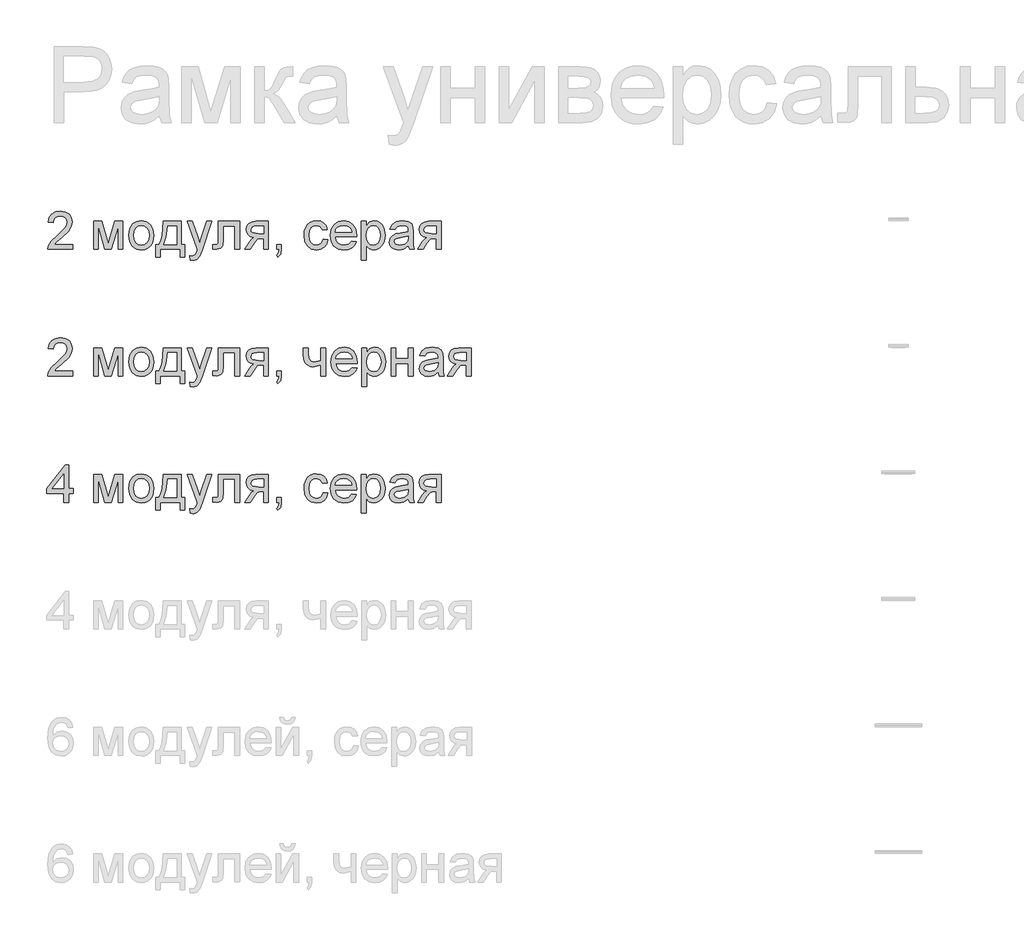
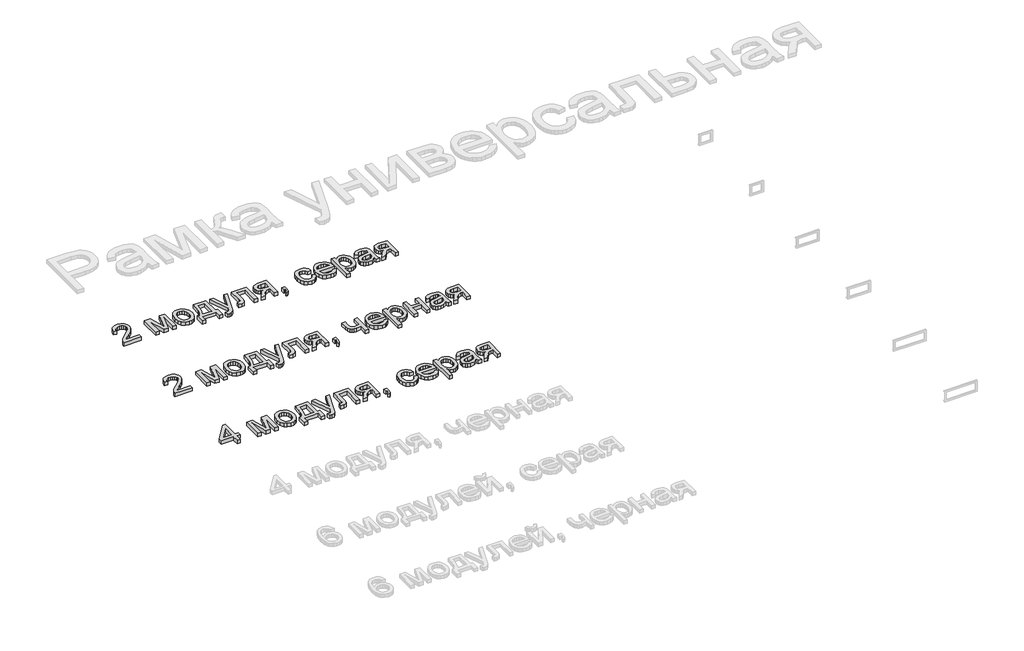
# One storey, part 6 of 168: 3 proxies.
"""IFC4 building model written with IfcOpenShell, lengths in millimetres."""

from ifc_helpers import new_model, si_unit, origin, origin_with_axes, place, context, project, spatial, polyline, outline, extrude, element, save

model = new_model("IFC4")

# Units and contexts
model_context = context("Model", 3, world=origin())
ifc_project = project(units=[si_unit("LENGTHUNIT", "METRE", prefix="MILLI")], contexts=[model_context])

# Site, building, storey
site = spatial("IfcSite", under=ifc_project)
building = spatial("IfcBuilding", under=site)
storey = spatial("IfcBuildingStorey", under=building, Name="Этаж 01", Elevation=0.0)

# Proxies
placement = place(None, origin())
element("IfcBuildingElementProxy", 1, Name="150", ObjectType="150", at=placement, inside=storey, context=model_context, shape_type="SweptSolid", body=[
    extrude(outline(polyline([(851.8055194, -43656.3988214), (851.8055194, -43675.2343796), (752.9188391, -43675.2343796), (754.9421901, -43662.2481452), (766.3833201, -43642.2537587), (789.964556, -43620.4199623), (822.4853244, -43589.0396281), (828.5829685, -43578.2238975), (830.6155165, -43567.7024724), (828.6979316, -43558.2708978), (822.9451769, -43550.4304127), (814.1022134, -43545.1467076), (802.9140022, -43543.3854725), (791.164771, -43545.1053209), (782.036699, -43550.2648658), (776.1459886, -43558.4594373), (774.108842, -43569.284365), (755.2732839, -43566.9299202), (759.8396191, -43548.7105644), (769.7126522, -43535.4024332), (784.3773482, -43527.2630441), (803.3186724, -43524.5499144), (822.3979524, -43527.5665467), (837.0350573, -43536.6164438), (846.3470703, -43550.1361071), (849.4510746, -43566.5620382), (846.1033485, -43584.4227091), (834.9749181, -43602.8903852), (807.9907738, -43628.6973072), (786.3225243, -43646.8154955), (777.8244502, -43656.3988214), (851.8055194, -43656.3988214)])), origin_with_axes(), (0.0, 0.0, 1.0), 20.0),
    extrude(outline(polyline([(934.2110863, -43564.5754754), (966.6214901, -43564.5754754), (991.6006776, -43653.1614599), (1018.5296396, -43564.5754754), (1049.57888, -43564.5754754), (1049.57888, -43675.2343796), (1030.7433219, -43675.2343796), (1030.7433219, -43586.1333604), (1003.667207, -43675.2343796), (978.9455369, -43675.2343796), (953.0466445, -43581.8659292), (953.0466445, -43675.2343796), (934.2110863, -43675.2343796), (934.2110863, -43564.5754754)])), origin_with_axes(), (0.0, 0.0, 1.0), 20.0),
    extrude(outline(polyline([(1073.1233277, -43619.9049275), (1077.1976208, -43593.2242858), (1089.4205001, -43574.4715011), (1104.522056, -43565.2836483), (1122.6034561, -43562.2210307), (1142.3909089, -43565.9504344), (1158.1960391, -43577.1386456), (1168.5565158, -43594.9027474), (1172.010008, -43618.3598231), (1170.4832977, -43637.3885193), (1165.9031669, -43651.8738729), (1158.4029727, -43662.7217932), (1148.1160724, -43670.8381898), (1135.8977917, -43675.9011657), (1122.6034561, -43677.5888244), (1102.5768799, -43673.8732162), (1086.7901438, -43662.7263918), (1076.5400317, -43644.5898094), (1073.1233277, -43619.9049275)]), holes=[polyline([(1091.9588859, -43619.8681393), (1094.1385867, -43636.9148713), (1100.6776891, -43649.0595756), (1110.5185325, -43656.3298436), (1122.6034561, -43658.7532662), (1134.6331973, -43656.316048), (1144.4556466, -43649.0043933), (1150.994749, -43636.6987406), (1153.1744499, -43619.2795281), (1150.9809535, -43602.7294369), (1144.4004643, -43590.7502794), (1134.5642194, -43583.4800115), (1122.6034561, -43581.0565888), (1110.5185325, -43583.4708144), (1100.6776891, -43590.7134912), (1094.1385867, -43602.8306044), (1091.9588859, -43619.8681393)])]), origin_with_axes(), (0.0, 0.0, 1.0), 20.0),
    extrude(outline(polyline([(1209.6811243, -43564.5754754), (1280.3144674, -43564.5754754), (1280.3144674, -43656.3988214), (1294.441136, -43656.3988214), (1294.441136, -43705.8421616), (1275.6055778, -43705.8421616), (1275.6055778, -43675.2343796), (1197.9089005, -43675.2343796), (1197.9089005, -43705.8421616), (1179.0733423, -43705.8421616), (1179.0733423, -43656.3988214), (1190.8455662, -43656.3988214), (1199.4034211, -43640.9339821), (1205.3952991, -43620.4751446), (1209.6811243, -43564.5754754)]), holes=[polyline([(1226.1622377, -43583.4110336), (1221.7476538, -43626.3244683), (1212.0355691, -43656.3988214), (1261.4789092, -43656.3988214), (1261.4789092, -43583.4110336), (1226.1622377, -43583.4110336)])]), origin_with_axes(), (0.0, 0.0, 1.0), 20.0),
    extrude(outline(polyline([(1315.6311389, -43717.6143854), (1313.2766942, -43699.4778031), (1322.841626, -43701.1332721), (1331.7811585, -43699.0547388), (1337.2626002, -43693.2605974), (1342.4129482, -43679.3914461), (1343.8844762, -43674.8297094), (1303.8589151, -43564.5754754), (1323.7245428, -43564.5754754), (1344.9513339, -43626.0117686), (1352.345762, -43650.5862859), (1359.7401901, -43628.8812482), (1381.5555925, -43564.5754754), (1401.2740674, -43564.5754754), (1362.7568225, -43677.88313), (1352.7504322, -43702.4576472), (1341.824337, -43715.7381873), (1327.1458454, -43719.9688302), (1315.6311389, -43717.6143854)])), origin_with_axes(), (0.0, 0.0, 1.0), 20.0),
    extrude(outline(polyline([(1426.2900431, -43564.5754754), (1511.0500548, -43564.5754754), (1511.0500548, -43675.124015), (1492.2144966, -43675.124015), (1492.2144966, -43583.4110336), (1445.1256012, -43583.4110336), (1445.1256012, -43636.2020999), (1443.8564083, -43660.555888), (1436.8850445, -43670.8381898), (1420.4039312, -43675.2343796), (1405.1000402, -43674.2778864), (1405.1000402, -43656.3988214), (1413.5245378, -43656.3988214), (1422.041006, -43655.2399932), (1425.4439145, -43651.5611732), (1426.2900431, -43635.1352421), (1426.2900431, -43564.5754754)])), origin_with_axes(), (0.0, 0.0, 1.0), 20.0),
    extrude(outline(polyline([(1624.0634037, -43564.5754754), (1624.0634037, -43675.2343796), (1605.2278455, -43675.2343796), (1605.2278455, -43632.8543737), (1594.9639379, -43632.8543737), (1580.984422, -43635.2456067), (1567.8510348, -43651.3220499), (1552.8414494, -43675.2343796), (1531.0628353, -43675.2343796), (1549.9719699, -43644.9944796), (1558.3228911, -43634.1419607), (1566.0116248, -43629.3227066), (1553.135755, -43625.3771722), (1544.0858579, -43617.8815765), (1538.7331749, -43607.9119745), (1536.9489472, -43596.5444208), (1539.3861654, -43583.6501569), (1546.6978201, -43573.4414315), (1558.6263938, -43566.7919645), (1574.9143691, -43564.5754754), (1624.0634037, -43564.5754754)]), holes=[polyline([(1605.2278455, -43583.4110336), (1580.3958109, -43583.4110336), (1567.5705248, -43584.500884), (1560.2910598, -43587.7704352), (1555.7845054, -43597.9791606), (1557.4445729, -43605.157458), (1562.4247754, -43610.1376605), (1585.950829, -43614.0188156), (1605.2278455, -43614.0188156), (1605.2278455, -43583.4110336)])]), origin_with_axes(), (0.0, 0.0, 1.0), 20.0),
    extrude(outline(polyline([(1657.0256304, -43675.2343796), (1657.0256304, -43656.3988214), (1675.8611886, -43656.3988214), (1675.8611886, -43675.2343796), (1672.4766742, -43694.493002), (1661.73452, -43705.8421616), (1657.0256304, -43698.7788273), (1663.941812, -43690.6486352), (1666.4066213, -43675.2343796), (1657.0256304, -43675.2343796)])), origin_with_axes(), (0.0, 0.0, 1.0), 20.0),
    extrude(outline(polyline([(1840.6723224, -43635.2088185), (1859.5078806, -43637.5632633), (1854.2563651, -43654.3156896), (1844.3879306, -43666.9754288), (1830.8314791, -43674.9354755), (1814.5159126, -43677.5888244), (1794.4801394, -43673.8870118), (1778.812965, -43662.7815741), (1768.7008086, -43644.7599548), (1765.3300898, -43620.3095977), (1766.7694281, -43603.5479743), (1771.0874431, -43589.021234), (1778.3531125, -43577.2903969), (1788.6354142, -43568.916483), (1800.9364684, -43563.8948938), (1814.2583952, -43562.2210307), (1830.17389, -43564.5202931), (1842.8980085, -43571.4180806), (1852.0260805, -43582.5465109), (1857.1534358, -43597.5377022), (1838.3178777, -43599.892147), (1829.5806803, -43585.7838725), (1814.405548, -43581.0565888), (1802.2332525, -43583.3834424), (1792.5717516, -43590.3640033), (1786.2671739, -43602.3753504), (1784.165648, -43619.7945629), (1786.2211886, -43637.4483002), (1792.3878106, -43649.501034), (1801.8745675, -43656.4402082), (1813.8905132, -43658.7532662), (1823.6439846, -43657.3093294), (1831.6408195, -43652.9775189), (1837.4579535, -43645.6474701), (1840.6723224, -43635.2088185)])), origin_with_axes(), (0.0, 0.0, 1.0), 20.0),
    extrude(outline(polyline([(1953.4649422, -43642.2721528), (1971.9326183, -43644.6265976), (1965.2785527, -43658.5417341), (1954.6605586, -43668.9435975), (1940.3177594, -43675.4275176), (1922.4892782, -43677.5888244), (1900.3887673, -43673.8594206), (1883.3834221, -43662.6712095), (1872.5401003, -43644.7507578), (1868.9256597, -43620.8246325), (1872.5768885, -43596.0937654), (1883.5305749, -43577.5984981), (1900.3059939, -43566.0653975), (1921.4224204, -43562.2210307), (1941.8812578, -43566.0562005), (1958.229014, -43577.5617099), (1968.9481756, -43596.020189), (1972.5212295, -43620.7142679), (1972.4108649, -43625.7910394), (1887.7612178, -43625.7910394), (1891.021572, -43639.8901169), (1898.5953426, -43650.2551921), (1909.5260364, -43656.6287477), (1922.8571602, -43658.7532662), (1941.3248363, -43654.8169289), (1953.4649422, -43642.2721528)]), holes=[polyline([(1887.7612178, -43606.9554813), (1953.6856714, -43606.9554813), (1951.1380885, -43597.0042733), (1946.1440905, -43589.8857567), (1935.1628129, -43583.2638808), (1921.348844, -43581.0565888), (1908.6523166, -43582.8178239), (1898.1538842, -43588.101529), (1890.8560251, -43596.3374872), (1887.7612178, -43606.9554813)])]), origin_with_axes(), (0.0, 0.0, 1.0), 20.0),
    extrude(outline(polyline([(1991.3567877, -43717.6143854), (1991.3567877, -43564.5754754), (2010.1923458, -43564.5754754), (2010.1923458, -43583.0431516), (2023.2153684, -43567.4265609), (2040.8001278, -43562.2210307), (2053.5380419, -43564.0420466), (2064.6756693, -43569.5050942), (2073.7439605, -43578.2790798), (2080.2738659, -43590.0329095), (2085.5345784, -43619.0587989), (2084.0492549, -43635.1674318), (2079.5932842, -43649.5746104), (2072.3092207, -43661.5491694), (2062.3396186, -43670.3599432), (2050.7283432, -43675.7816041), (2038.5192594, -43677.5888244), (2022.1301166, -43672.7511761), (2010.1923458, -43660.5190998), (2010.1923458, -43717.6143854), (1991.3567877, -43717.6143854)]), holes=[polyline([(2010.1923458, -43620.7878443), (2012.2294924, -43637.6736279), (2018.340932, -43649.4826399), (2027.3586394, -43656.4356096), (2038.1145893, -43658.7532662), (2049.045283, -43656.3528362), (2058.2929167, -43649.1515461), (2064.5974944, -43636.9102727), (2066.6990203, -43619.3898927), (2064.6480782, -43602.5960796), (2058.4952518, -43590.6215207), (2049.49134, -43583.4478218), (2038.8871414, -43581.0565888), (2028.2415562, -43583.5995731), (2018.892755, -43591.228526), (2012.3674481, -43603.7043242), (2010.1923458, -43620.7878443)])]), origin_with_axes(), (0.0, 0.0, 1.0), 20.0),
    extrude(outline(polyline([(2177.3579244, -43661.107711), (2159.0925834, -43673.8732162), (2138.9142559, -43677.5888244), (2123.1735051, -43675.3539412), (2111.5622296, -43668.6492919), (2104.4023263, -43658.4681577), (2102.0156918, -43645.80382), (2105.6209354, -43630.9045992), (2115.0938967, -43620.0888685), (2128.2824663, -43613.908451), (2144.5796387, -43611.0757596), (2177.2475598, -43604.6010365), (2177.3579244, -43600.4071818), (2176.0611404, -43592.0010782), (2172.1707883, -43586.5012424), (2163.4703791, -43582.4177522), (2151.3486674, -43581.0565888), (2132.29238, -43584.6802265), (2123.2056947, -43597.5377022), (2104.3701366, -43595.1832574), (2112.5187228, -43576.7891577), (2128.9262598, -43566.0102152), (2153.7766885, -43562.2210307), (2176.6037663, -43565.5687568), (2189.4980303, -43573.9748604), (2195.2737776, -43586.7587598), (2196.1934826, -43603.2398731), (2196.1934826, -43626.6739562), (2197.1499758, -43659.3970597), (2200.9023721, -43675.2343796), (2182.066814, -43675.2343796), (2177.3579244, -43661.107711)]), holes=[polyline([(2177.3579244, -43623.4365947), (2146.9708716, -43629.212342), (2130.7656697, -43632.2657626), (2123.4264239, -43637.2321695), (2120.85125, -43644.4794448), (2126.4614504, -43654.6697761), (2142.9241697, -43658.7532662), (2161.980457, -43654.2467118), (2174.2677157, -43643.3390106), (2177.2475598, -43628.7708836), (2177.3579244, -43623.4365947)])]), origin_with_axes(), (0.0, 0.0, 1.0), 20.0),
    extrude(outline(polyline([(2306.8523867, -43564.5754754), (2306.8523867, -43675.2343796), (2288.0168286, -43675.2343796), (2288.0168286, -43632.8543737), (2277.7529209, -43632.8543737), (2263.7734051, -43635.2456067), (2250.6400179, -43651.3220499), (2235.6304325, -43675.2343796), (2213.8518183, -43675.2343796), (2232.7609529, -43644.9944796), (2241.1118742, -43634.1419607), (2248.8006079, -43629.3227066), (2235.9247381, -43625.3771722), (2226.874841, -43617.8815765), (2221.5221579, -43607.9119745), (2219.7379303, -43596.5444208), (2222.1751485, -43583.6501569), (2229.4868031, -43573.4414315), (2241.4153768, -43566.7919645), (2257.7033522, -43564.5754754), (2306.8523867, -43564.5754754)]), holes=[polyline([(2288.0168286, -43583.4110336), (2263.1847939, -43583.4110336), (2250.3595078, -43584.500884), (2243.0800429, -43587.7704352), (2238.5734884, -43597.9791606), (2240.2335559, -43605.157458), (2245.2137584, -43610.1376605), (2268.739812, -43614.0188156), (2288.0168286, -43614.0188156), (2288.0168286, -43583.4110336)])]), origin_with_axes(), (0.0, 0.0, 1.0), 20.0),
])
element("IfcBuildingElementProxy", 2, Name="150", ObjectType="150", at=placement, inside=storey, context=model_context, shape_type="SweptSolid", body=[
    extrude(outline(polyline([(851.8055194, -44156.3988214), (851.8055194, -44175.2343796), (752.9188391, -44175.2343796), (754.9421901, -44162.2481452), (766.3833201, -44142.2537587), (789.964556, -44120.4199623), (822.4853244, -44089.0396281), (828.5829685, -44078.2238975), (830.6155165, -44067.7024724), (828.6979316, -44058.2708978), (822.9451769, -44050.4304127), (814.1022134, -44045.1467076), (802.9140022, -44043.3854725), (791.164771, -44045.1053209), (782.036699, -44050.2648658), (776.1459886, -44058.4594373), (774.108842, -44069.284365), (755.2732839, -44066.9299202), (759.8396191, -44048.7105644), (769.7126522, -44035.4024332), (784.3773482, -44027.2630441), (803.3186724, -44024.5499144), (822.3979524, -44027.5665467), (837.0350573, -44036.6164438), (846.3470703, -44050.1361071), (849.4510746, -44066.5620382), (846.1033485, -44084.4227091), (834.9749181, -44102.8903852), (807.9907738, -44128.6973072), (786.3225243, -44146.8154955), (777.8244502, -44156.3988214), (851.8055194, -44156.3988214)])), origin_with_axes(), (0.0, 0.0, 1.0), 20.0),
    extrude(outline(polyline([(934.2110863, -44064.5754754), (966.6214901, -44064.5754754), (991.6006776, -44153.1614599), (1018.5296396, -44064.5754754), (1049.57888, -44064.5754754), (1049.57888, -44175.2343796), (1030.7433219, -44175.2343796), (1030.7433219, -44086.1333604), (1003.667207, -44175.2343796), (978.9455369, -44175.2343796), (953.0466445, -44081.8659292), (953.0466445, -44175.2343796), (934.2110863, -44175.2343796), (934.2110863, -44064.5754754)])), origin_with_axes(), (0.0, 0.0, 1.0), 20.0),
    extrude(outline(polyline([(1073.1233277, -44119.9049275), (1077.1976208, -44093.2242858), (1089.4205001, -44074.4715011), (1104.522056, -44065.2836483), (1122.6034561, -44062.2210307), (1142.3909089, -44065.9504344), (1158.1960391, -44077.1386456), (1168.5565158, -44094.9027474), (1172.010008, -44118.3598231), (1170.4832977, -44137.3885193), (1165.9031669, -44151.8738729), (1158.4029727, -44162.7217932), (1148.1160724, -44170.8381898), (1135.8977917, -44175.9011657), (1122.6034561, -44177.5888244), (1102.5768799, -44173.8732162), (1086.7901438, -44162.7263918), (1076.5400317, -44144.5898094), (1073.1233277, -44119.9049275)]), holes=[polyline([(1091.9588859, -44119.8681393), (1094.1385867, -44136.9148713), (1100.6776891, -44149.0595756), (1110.5185325, -44156.3298436), (1122.6034561, -44158.7532662), (1134.6331973, -44156.316048), (1144.4556466, -44149.0043933), (1150.994749, -44136.6987406), (1153.1744499, -44119.2795281), (1150.9809535, -44102.7294369), (1144.4004643, -44090.7502794), (1134.5642194, -44083.4800115), (1122.6034561, -44081.0565888), (1110.5185325, -44083.4708144), (1100.6776891, -44090.7134912), (1094.1385867, -44102.8306044), (1091.9588859, -44119.8681393)])]), origin_with_axes(), (0.0, 0.0, 1.0), 20.0),
    extrude(outline(polyline([(1209.6811243, -44064.5754754), (1280.3144674, -44064.5754754), (1280.3144674, -44156.3988214), (1294.441136, -44156.3988214), (1294.441136, -44205.8421616), (1275.6055778, -44205.8421616), (1275.6055778, -44175.2343796), (1197.9089005, -44175.2343796), (1197.9089005, -44205.8421616), (1179.0733423, -44205.8421616), (1179.0733423, -44156.3988214), (1190.8455662, -44156.3988214), (1199.4034211, -44140.9339821), (1205.3952991, -44120.4751446), (1209.6811243, -44064.5754754)]), holes=[polyline([(1226.1622377, -44083.4110336), (1221.7476538, -44126.3244683), (1212.0355691, -44156.3988214), (1261.4789092, -44156.3988214), (1261.4789092, -44083.4110336), (1226.1622377, -44083.4110336)])]), origin_with_axes(), (0.0, 0.0, 1.0), 20.0),
    extrude(outline(polyline([(1315.6311389, -44217.6143854), (1313.2766942, -44199.4778031), (1322.841626, -44201.1332721), (1331.7811585, -44199.0547388), (1337.2626002, -44193.2605974), (1342.4129482, -44179.3914461), (1343.8844762, -44174.8297094), (1303.8589151, -44064.5754754), (1323.7245428, -44064.5754754), (1344.9513339, -44126.0117686), (1352.345762, -44150.5862859), (1359.7401901, -44128.8812482), (1381.5555925, -44064.5754754), (1401.2740674, -44064.5754754), (1362.7568225, -44177.88313), (1352.7504322, -44202.4576472), (1341.824337, -44215.7381873), (1327.1458454, -44219.9688302), (1315.6311389, -44217.6143854)])), origin_with_axes(), (0.0, 0.0, 1.0), 20.0),
    extrude(outline(polyline([(1426.2900431, -44064.5754754), (1511.0500548, -44064.5754754), (1511.0500548, -44175.124015), (1492.2144966, -44175.124015), (1492.2144966, -44083.4110336), (1445.1256012, -44083.4110336), (1445.1256012, -44136.2020999), (1443.8564083, -44160.555888), (1436.8850445, -44170.8381898), (1420.4039312, -44175.2343796), (1405.1000402, -44174.2778864), (1405.1000402, -44156.3988214), (1413.5245378, -44156.3988214), (1422.041006, -44155.2399932), (1425.4439145, -44151.5611732), (1426.2900431, -44135.1352421), (1426.2900431, -44064.5754754)])), origin_with_axes(), (0.0, 0.0, 1.0), 20.0),
    extrude(outline(polyline([(1624.0634037, -44064.5754754), (1624.0634037, -44175.2343796), (1605.2278455, -44175.2343796), (1605.2278455, -44132.8543737), (1594.9639379, -44132.8543737), (1580.984422, -44135.2456067), (1567.8510348, -44151.3220499), (1552.8414494, -44175.2343796), (1531.0628353, -44175.2343796), (1549.9719699, -44144.9944796), (1558.3228911, -44134.1419607), (1566.0116248, -44129.3227066), (1553.135755, -44125.3771722), (1544.0858579, -44117.8815765), (1538.7331749, -44107.9119745), (1536.9489472, -44096.5444208), (1539.3861654, -44083.6501569), (1546.6978201, -44073.4414315), (1558.6263938, -44066.7919645), (1574.9143691, -44064.5754754), (1624.0634037, -44064.5754754)]), holes=[polyline([(1605.2278455, -44083.4110336), (1580.3958109, -44083.4110336), (1567.5705248, -44084.500884), (1560.2910598, -44087.7704352), (1555.7845054, -44097.9791606), (1557.4445729, -44105.157458), (1562.4247754, -44110.1376605), (1585.950829, -44114.0188156), (1605.2278455, -44114.0188156), (1605.2278455, -44083.4110336)])]), origin_with_axes(), (0.0, 0.0, 1.0), 20.0),
    extrude(outline(polyline([(1657.0256304, -44175.2343796), (1657.0256304, -44156.3988214), (1675.8611886, -44156.3988214), (1675.8611886, -44175.2343796), (1672.4766742, -44194.493002), (1661.73452, -44205.8421616), (1657.0256304, -44198.7788273), (1663.941812, -44190.6486352), (1666.4066213, -44175.2343796), (1657.0256304, -44175.2343796)])), origin_with_axes(), (0.0, 0.0, 1.0), 20.0),
    extrude(outline(polyline([(1762.9756451, -44064.5754754), (1781.8112032, -44064.5754754), (1781.8112032, -44085.8022666), (1783.3379135, -44105.7046825), (1790.6771593, -44116.483625), (1805.2452863, -44121.0821499), (1831.2545434, -44115.379979), (1831.2545434, -44064.5754754), (1850.0901015, -44064.5754754), (1850.0901015, -44175.2343796), (1831.2545434, -44175.2343796), (1831.2545434, -44133.4429849), (1800.205303, -44139.9177081), (1788.8147567, -44138.2300494), (1778.8497532, -44133.1670734), (1771.0828445, -44125.6576822), (1766.286583, -44116.6307778), (1762.9756451, -44095.109681), (1762.9756451, -44064.5754754)])), origin_with_axes(), (0.0, 0.0, 1.0), 20.0),
    extrude(outline(polyline([(1955.8193869, -44142.2721528), (1974.2870631, -44144.6265976), (1967.6329975, -44158.5417341), (1957.0150034, -44168.9435975), (1942.6722041, -44175.4275176), (1924.8437229, -44177.5888244), (1902.7432121, -44173.8594206), (1885.7378668, -44162.6712095), (1874.894545, -44144.7507578), (1871.2801044, -44120.8246325), (1874.9313332, -44096.0937654), (1885.8850196, -44077.5984981), (1902.6604386, -44066.0653975), (1923.7768652, -44062.2210307), (1944.2357026, -44066.0562005), (1960.5834588, -44077.5617099), (1971.3026204, -44096.020189), (1974.8756743, -44120.7142679), (1974.7653097, -44125.7910394), (1890.1156626, -44125.7910394), (1893.3760168, -44139.8901169), (1900.9497874, -44150.2551921), (1911.8804811, -44156.6287477), (1925.2116049, -44158.7532662), (1943.6792811, -44154.8169289), (1955.8193869, -44142.2721528)]), holes=[polyline([(1890.1156626, -44106.9554813), (1956.0401161, -44106.9554813), (1953.4925333, -44097.0042733), (1948.4985352, -44089.8857567), (1937.5172577, -44083.2638808), (1923.7032888, -44081.0565888), (1911.0067614, -44082.8178239), (1900.508329, -44088.101529), (1893.2104699, -44096.3374872), (1890.1156626, -44106.9554813)])]), origin_with_axes(), (0.0, 0.0, 1.0), 20.0),
    extrude(outline(polyline([(1993.7112324, -44217.6143854), (1993.7112324, -44064.5754754), (2012.5467906, -44064.5754754), (2012.5467906, -44083.0431516), (2025.5698132, -44067.4265609), (2043.1545726, -44062.2210307), (2055.8924867, -44064.0420466), (2067.0301141, -44069.5050942), (2076.0984053, -44078.2790798), (2082.6283107, -44090.0329095), (2087.8890232, -44119.0587989), (2086.4036996, -44135.1674318), (2081.947729, -44149.5746104), (2074.6636655, -44161.5491694), (2064.6940634, -44170.3599432), (2053.0827879, -44175.7816041), (2040.8737042, -44177.5888244), (2024.4845613, -44172.7511761), (2012.5467906, -44160.5190998), (2012.5467906, -44217.6143854), (1993.7112324, -44217.6143854)]), holes=[polyline([(2012.5467906, -44120.7878443), (2014.5839371, -44137.6736279), (2020.6953768, -44149.4826399), (2029.7130842, -44156.4356096), (2040.469034, -44158.7532662), (2051.3997278, -44156.3528362), (2060.6473615, -44149.1515461), (2066.9519391, -44136.9102727), (2069.053465, -44119.3898927), (2067.0025229, -44102.5960796), (2060.8496966, -44090.6215207), (2051.8457847, -44083.4478218), (2041.2415862, -44081.0565888), (2030.596001, -44083.5995731), (2021.2471998, -44091.228526), (2014.7218929, -44103.7043242), (2012.5467906, -44120.7878443)])]), origin_with_axes(), (0.0, 0.0, 1.0), 20.0),
    extrude(outline(polyline([(2109.0790261, -44064.5754754), (2127.9145843, -44064.5754754), (2127.9145843, -44106.9554813), (2177.3579244, -44106.9554813), (2177.3579244, -44064.5754754), (2196.1934826, -44064.5754754), (2196.1934826, -44175.2343796), (2177.3579244, -44175.2343796), (2177.3579244, -44125.7910394), (2127.9145843, -44125.7910394), (2127.9145843, -44175.2343796), (2109.0790261, -44175.2343796), (2109.0790261, -44064.5754754)])), origin_with_axes(), (0.0, 0.0, 1.0), 20.0),
    extrude(outline(polyline([(2295.0801629, -44161.107711), (2276.8148218, -44173.8732162), (2256.6364944, -44177.5888244), (2240.8957435, -44175.3539412), (2229.284468, -44168.6492919), (2222.1245647, -44158.4681577), (2219.7379303, -44145.80382), (2223.3431738, -44130.9045992), (2232.8161352, -44120.0888685), (2246.0047047, -44113.908451), (2262.3018771, -44111.0757596), (2294.9697983, -44104.6010365), (2295.0801629, -44100.4071818), (2293.7833789, -44092.0010782), (2289.8930268, -44086.5012424), (2281.1926176, -44082.4177522), (2269.0709058, -44081.0565888), (2250.0146185, -44084.6802265), (2240.9279332, -44097.5377022), (2222.092375, -44095.1832574), (2230.2409612, -44076.7891577), (2246.6484982, -44066.0102152), (2271.498927, -44062.2210307), (2294.3260048, -44065.5687568), (2307.2202687, -44073.9748604), (2312.996016, -44086.7587598), (2313.915721, -44103.2398731), (2313.915721, -44126.6739562), (2314.8722142, -44159.3970597), (2318.6246106, -44175.2343796), (2299.7890524, -44175.2343796), (2295.0801629, -44161.107711)]), holes=[polyline([(2295.0801629, -44123.4365947), (2264.6931101, -44129.212342), (2248.4879082, -44132.2657626), (2241.1486624, -44137.2321695), (2238.5734884, -44144.4794448), (2244.1836889, -44154.6697761), (2260.6464081, -44158.7532662), (2279.7026955, -44154.2467118), (2291.9899541, -44143.3390106), (2294.9697983, -44128.7708836), (2295.0801629, -44123.4365947)])]), origin_with_axes(), (0.0, 0.0, 1.0), 20.0),
    extrude(outline(polyline([(2424.5746252, -44064.5754754), (2424.5746252, -44175.2343796), (2405.739067, -44175.2343796), (2405.739067, -44132.8543737), (2395.4751594, -44132.8543737), (2381.4956436, -44135.2456067), (2368.3622563, -44151.3220499), (2353.3526709, -44175.2343796), (2331.5740568, -44175.2343796), (2350.4831914, -44144.9944796), (2358.8341126, -44134.1419607), (2366.5228463, -44129.3227066), (2353.6469765, -44125.3771722), (2344.5970794, -44117.8815765), (2339.2443964, -44107.9119745), (2337.4601687, -44096.5444208), (2339.8973869, -44083.6501569), (2347.2090416, -44073.4414315), (2359.1376153, -44066.7919645), (2375.4255906, -44064.5754754), (2424.5746252, -44064.5754754)]), holes=[polyline([(2405.739067, -44083.4110336), (2380.9070324, -44083.4110336), (2368.0817463, -44084.500884), (2360.8022813, -44087.7704352), (2356.2957269, -44097.9791606), (2357.9557944, -44105.157458), (2362.9359969, -44110.1376605), (2386.4620505, -44114.0188156), (2405.739067, -44114.0188156), (2405.739067, -44083.4110336)])]), origin_with_axes(), (0.0, 0.0, 1.0), 20.0),
])
element("IfcBuildingElementProxy", 3, Name="150", ObjectType="150", at=placement, inside=storey, context=model_context, shape_type="SweptSolid", body=[
    extrude(outline(polyline([(816.4888479, -44675.2343796), (816.4888479, -44639.9177081), (748.2099496, -44639.9177081), (748.2099496, -44621.0821499), (821.1977374, -44526.9043591), (835.324406, -44526.9043591), (835.324406, -44621.0821499), (854.1599642, -44621.0821499), (854.1599642, -44639.9177081), (835.324406, -44639.9177081), (835.324406, -44675.2343796), (816.4888479, -44675.2343796)]), holes=[polyline([(816.4888479, -44621.0821499), (816.4888479, -44562.8832183), (771.3865153, -44621.0821499), (816.4888479, -44621.0821499)])]), origin_with_axes(), (0.0, 0.0, 1.0), 20.0),
    extrude(outline(polyline([(934.2110863, -44564.5754754), (966.6214901, -44564.5754754), (991.6006776, -44653.1614599), (1018.5296396, -44564.5754754), (1049.57888, -44564.5754754), (1049.57888, -44675.2343796), (1030.7433219, -44675.2343796), (1030.7433219, -44586.1333604), (1003.667207, -44675.2343796), (978.9455369, -44675.2343796), (953.0466445, -44581.8659292), (953.0466445, -44675.2343796), (934.2110863, -44675.2343796), (934.2110863, -44564.5754754)])), origin_with_axes(), (0.0, 0.0, 1.0), 20.0),
    extrude(outline(polyline([(1073.1233277, -44619.9049275), (1077.1976208, -44593.2242858), (1089.4205001, -44574.4715011), (1104.522056, -44565.2836483), (1122.6034561, -44562.2210307), (1142.3909089, -44565.9504344), (1158.1960391, -44577.1386456), (1168.5565158, -44594.9027474), (1172.010008, -44618.3598231), (1170.4832977, -44637.3885193), (1165.9031669, -44651.8738729), (1158.4029727, -44662.7217932), (1148.1160724, -44670.8381898), (1135.8977917, -44675.9011657), (1122.6034561, -44677.5888244), (1102.5768799, -44673.8732162), (1086.7901438, -44662.7263918), (1076.5400317, -44644.5898094), (1073.1233277, -44619.9049275)]), holes=[polyline([(1091.9588859, -44619.8681393), (1094.1385867, -44636.9148713), (1100.6776891, -44649.0595756), (1110.5185325, -44656.3298436), (1122.6034561, -44658.7532662), (1134.6331973, -44656.316048), (1144.4556466, -44649.0043933), (1150.994749, -44636.6987406), (1153.1744499, -44619.2795281), (1150.9809535, -44602.7294369), (1144.4004643, -44590.7502794), (1134.5642194, -44583.4800115), (1122.6034561, -44581.0565888), (1110.5185325, -44583.4708144), (1100.6776891, -44590.7134912), (1094.1385867, -44602.8306044), (1091.9588859, -44619.8681393)])]), origin_with_axes(), (0.0, 0.0, 1.0), 20.0),
    extrude(outline(polyline([(1209.6811243, -44564.5754754), (1280.3144674, -44564.5754754), (1280.3144674, -44656.3988214), (1294.441136, -44656.3988214), (1294.441136, -44705.8421616), (1275.6055778, -44705.8421616), (1275.6055778, -44675.2343796), (1197.9089005, -44675.2343796), (1197.9089005, -44705.8421616), (1179.0733423, -44705.8421616), (1179.0733423, -44656.3988214), (1190.8455662, -44656.3988214), (1199.4034211, -44640.9339821), (1205.3952991, -44620.4751446), (1209.6811243, -44564.5754754)]), holes=[polyline([(1226.1622377, -44583.4110336), (1221.7476538, -44626.3244683), (1212.0355691, -44656.3988214), (1261.4789092, -44656.3988214), (1261.4789092, -44583.4110336), (1226.1622377, -44583.4110336)])]), origin_with_axes(), (0.0, 0.0, 1.0), 20.0),
    extrude(outline(polyline([(1315.6311389, -44717.6143854), (1313.2766942, -44699.4778031), (1322.841626, -44701.1332721), (1331.7811585, -44699.0547388), (1337.2626002, -44693.2605974), (1342.4129482, -44679.3914461), (1343.8844762, -44674.8297094), (1303.8589151, -44564.5754754), (1323.7245428, -44564.5754754), (1344.9513339, -44626.0117686), (1352.345762, -44650.5862859), (1359.7401901, -44628.8812482), (1381.5555925, -44564.5754754), (1401.2740674, -44564.5754754), (1362.7568225, -44677.88313), (1352.7504322, -44702.4576472), (1341.824337, -44715.7381873), (1327.1458454, -44719.9688302), (1315.6311389, -44717.6143854)])), origin_with_axes(), (0.0, 0.0, 1.0), 20.0),
    extrude(outline(polyline([(1426.2900431, -44564.5754754), (1511.0500548, -44564.5754754), (1511.0500548, -44675.124015), (1492.2144966, -44675.124015), (1492.2144966, -44583.4110336), (1445.1256012, -44583.4110336), (1445.1256012, -44636.2020999), (1443.8564083, -44660.555888), (1436.8850445, -44670.8381898), (1420.4039312, -44675.2343796), (1405.1000402, -44674.2778864), (1405.1000402, -44656.3988214), (1413.5245378, -44656.3988214), (1422.041006, -44655.2399932), (1425.4439145, -44651.5611732), (1426.2900431, -44635.1352421), (1426.2900431, -44564.5754754)])), origin_with_axes(), (0.0, 0.0, 1.0), 20.0),
    extrude(outline(polyline([(1624.0634037, -44564.5754754), (1624.0634037, -44675.2343796), (1605.2278455, -44675.2343796), (1605.2278455, -44632.8543737), (1594.9639379, -44632.8543737), (1580.984422, -44635.2456067), (1567.8510348, -44651.3220499), (1552.8414494, -44675.2343796), (1531.0628353, -44675.2343796), (1549.9719699, -44644.9944796), (1558.3228911, -44634.1419607), (1566.0116248, -44629.3227066), (1553.135755, -44625.3771722), (1544.0858579, -44617.8815765), (1538.7331749, -44607.9119745), (1536.9489472, -44596.5444208), (1539.3861654, -44583.6501569), (1546.6978201, -44573.4414315), (1558.6263938, -44566.7919645), (1574.9143691, -44564.5754754), (1624.0634037, -44564.5754754)]), holes=[polyline([(1605.2278455, -44583.4110336), (1580.3958109, -44583.4110336), (1567.5705248, -44584.500884), (1560.2910598, -44587.7704352), (1555.7845054, -44597.9791606), (1557.4445729, -44605.157458), (1562.4247754, -44610.1376605), (1585.950829, -44614.0188156), (1605.2278455, -44614.0188156), (1605.2278455, -44583.4110336)])]), origin_with_axes(), (0.0, 0.0, 1.0), 20.0),
    extrude(outline(polyline([(1657.0256304, -44675.2343796), (1657.0256304, -44656.3988214), (1675.8611886, -44656.3988214), (1675.8611886, -44675.2343796), (1672.4766742, -44694.493002), (1661.73452, -44705.8421616), (1657.0256304, -44698.7788273), (1663.941812, -44690.6486352), (1666.4066213, -44675.2343796), (1657.0256304, -44675.2343796)])), origin_with_axes(), (0.0, 0.0, 1.0), 20.0),
    extrude(outline(polyline([(1840.6723224, -44635.2088185), (1859.5078806, -44637.5632633), (1854.2563651, -44654.3156896), (1844.3879306, -44666.9754288), (1830.8314791, -44674.9354755), (1814.5159126, -44677.5888244), (1794.4801394, -44673.8870118), (1778.812965, -44662.7815741), (1768.7008086, -44644.7599548), (1765.3300898, -44620.3095977), (1766.7694281, -44603.5479743), (1771.0874431, -44589.021234), (1778.3531125, -44577.2903969), (1788.6354142, -44568.916483), (1800.9364684, -44563.8948938), (1814.2583952, -44562.2210307), (1830.17389, -44564.5202931), (1842.8980085, -44571.4180806), (1852.0260805, -44582.5465109), (1857.1534358, -44597.5377022), (1838.3178777, -44599.892147), (1829.5806803, -44585.7838725), (1814.405548, -44581.0565888), (1802.2332525, -44583.3834424), (1792.5717516, -44590.3640033), (1786.2671739, -44602.3753504), (1784.165648, -44619.7945629), (1786.2211886, -44637.4483002), (1792.3878106, -44649.501034), (1801.8745675, -44656.4402082), (1813.8905132, -44658.7532662), (1823.6439846, -44657.3093294), (1831.6408195, -44652.9775189), (1837.4579535, -44645.6474701), (1840.6723224, -44635.2088185)])), origin_with_axes(), (0.0, 0.0, 1.0), 20.0),
    extrude(outline(polyline([(1953.4649422, -44642.2721528), (1971.9326183, -44644.6265976), (1965.2785527, -44658.5417341), (1954.6605586, -44668.9435975), (1940.3177594, -44675.4275176), (1922.4892782, -44677.5888244), (1900.3887673, -44673.8594206), (1883.3834221, -44662.6712095), (1872.5401003, -44644.7507578), (1868.9256597, -44620.8246325), (1872.5768885, -44596.0937654), (1883.5305749, -44577.5984981), (1900.3059939, -44566.0653975), (1921.4224204, -44562.2210307), (1941.8812578, -44566.0562005), (1958.229014, -44577.5617099), (1968.9481756, -44596.020189), (1972.5212295, -44620.7142679), (1972.4108649, -44625.7910394), (1887.7612178, -44625.7910394), (1891.021572, -44639.8901169), (1898.5953426, -44650.2551921), (1909.5260364, -44656.6287477), (1922.8571602, -44658.7532662), (1941.3248363, -44654.8169289), (1953.4649422, -44642.2721528)]), holes=[polyline([(1887.7612178, -44606.9554813), (1953.6856714, -44606.9554813), (1951.1380885, -44597.0042733), (1946.1440905, -44589.8857567), (1935.1628129, -44583.2638808), (1921.348844, -44581.0565888), (1908.6523166, -44582.8178239), (1898.1538842, -44588.101529), (1890.8560251, -44596.3374872), (1887.7612178, -44606.9554813)])]), origin_with_axes(), (0.0, 0.0, 1.0), 20.0),
    extrude(outline(polyline([(1991.3567877, -44717.6143854), (1991.3567877, -44564.5754754), (2010.1923458, -44564.5754754), (2010.1923458, -44583.0431516), (2023.2153684, -44567.4265609), (2040.8001278, -44562.2210307), (2053.5380419, -44564.0420466), (2064.6756693, -44569.5050942), (2073.7439605, -44578.2790798), (2080.2738659, -44590.0329095), (2085.5345784, -44619.0587989), (2084.0492549, -44635.1674318), (2079.5932842, -44649.5746104), (2072.3092207, -44661.5491694), (2062.3396186, -44670.3599432), (2050.7283432, -44675.7816041), (2038.5192594, -44677.5888244), (2022.1301166, -44672.7511761), (2010.1923458, -44660.5190998), (2010.1923458, -44717.6143854), (1991.3567877, -44717.6143854)]), holes=[polyline([(2010.1923458, -44620.7878443), (2012.2294924, -44637.6736279), (2018.340932, -44649.4826399), (2027.3586394, -44656.4356096), (2038.1145893, -44658.7532662), (2049.045283, -44656.3528362), (2058.2929167, -44649.1515461), (2064.5974944, -44636.9102727), (2066.6990203, -44619.3898927), (2064.6480782, -44602.5960796), (2058.4952518, -44590.6215207), (2049.49134, -44583.4478218), (2038.8871414, -44581.0565888), (2028.2415562, -44583.5995731), (2018.892755, -44591.228526), (2012.3674481, -44603.7043242), (2010.1923458, -44620.7878443)])]), origin_with_axes(), (0.0, 0.0, 1.0), 20.0),
    extrude(outline(polyline([(2177.3579244, -44661.107711), (2159.0925834, -44673.8732162), (2138.9142559, -44677.5888244), (2123.1735051, -44675.3539412), (2111.5622296, -44668.6492919), (2104.4023263, -44658.4681577), (2102.0156918, -44645.80382), (2105.6209354, -44630.9045992), (2115.0938967, -44620.0888685), (2128.2824663, -44613.908451), (2144.5796387, -44611.0757596), (2177.2475598, -44604.6010365), (2177.3579244, -44600.4071818), (2176.0611404, -44592.0010782), (2172.1707883, -44586.5012424), (2163.4703791, -44582.4177522), (2151.3486674, -44581.0565888), (2132.29238, -44584.6802265), (2123.2056947, -44597.5377022), (2104.3701366, -44595.1832574), (2112.5187228, -44576.7891577), (2128.9262598, -44566.0102152), (2153.7766885, -44562.2210307), (2176.6037663, -44565.5687568), (2189.4980303, -44573.9748604), (2195.2737776, -44586.7587598), (2196.1934826, -44603.2398731), (2196.1934826, -44626.6739562), (2197.1499758, -44659.3970597), (2200.9023721, -44675.2343796), (2182.066814, -44675.2343796), (2177.3579244, -44661.107711)]), holes=[polyline([(2177.3579244, -44623.4365947), (2146.9708716, -44629.212342), (2130.7656697, -44632.2657626), (2123.4264239, -44637.2321695), (2120.85125, -44644.4794448), (2126.4614504, -44654.6697761), (2142.9241697, -44658.7532662), (2161.980457, -44654.2467118), (2174.2677157, -44643.3390106), (2177.2475598, -44628.7708836), (2177.3579244, -44623.4365947)])]), origin_with_axes(), (0.0, 0.0, 1.0), 20.0),
    extrude(outline(polyline([(2306.8523867, -44564.5754754), (2306.8523867, -44675.2343796), (2288.0168286, -44675.2343796), (2288.0168286, -44632.8543737), (2277.7529209, -44632.8543737), (2263.7734051, -44635.2456067), (2250.6400179, -44651.3220499), (2235.6304325, -44675.2343796), (2213.8518183, -44675.2343796), (2232.7609529, -44644.9944796), (2241.1118742, -44634.1419607), (2248.8006079, -44629.3227066), (2235.9247381, -44625.3771722), (2226.874841, -44617.8815765), (2221.5221579, -44607.9119745), (2219.7379303, -44596.5444208), (2222.1751485, -44583.6501569), (2229.4868031, -44573.4414315), (2241.4153768, -44566.7919645), (2257.7033522, -44564.5754754), (2306.8523867, -44564.5754754)]), holes=[polyline([(2288.0168286, -44583.4110336), (2263.1847939, -44583.4110336), (2250.3595078, -44584.500884), (2243.0800429, -44587.7704352), (2238.5734884, -44597.9791606), (2240.2335559, -44605.157458), (2245.2137584, -44610.1376605), (2268.739812, -44614.0188156), (2288.0168286, -44614.0188156), (2288.0168286, -44583.4110336)])]), origin_with_axes(), (0.0, 0.0, 1.0), 20.0),
])

save(model, "model.ifc")
